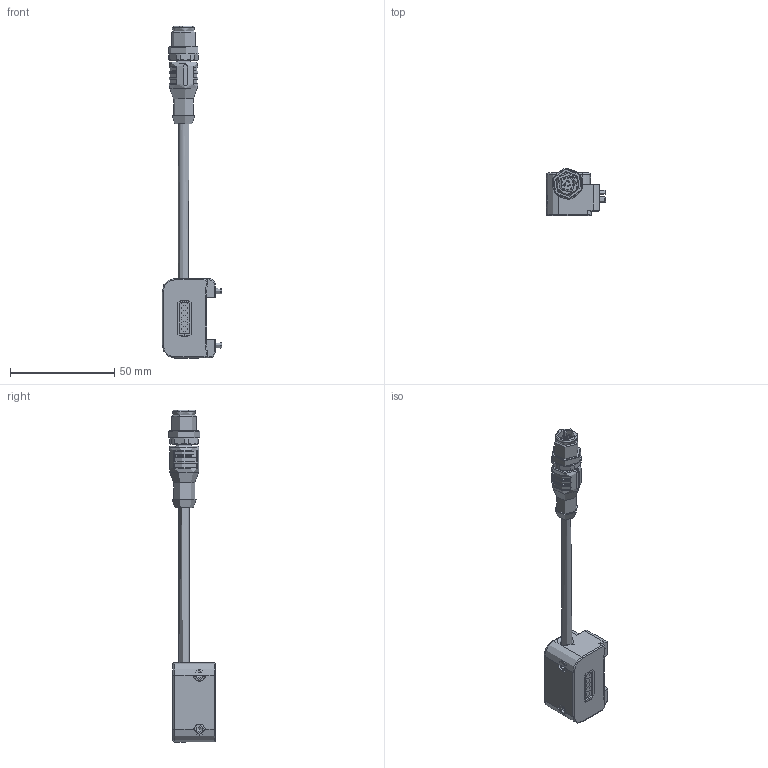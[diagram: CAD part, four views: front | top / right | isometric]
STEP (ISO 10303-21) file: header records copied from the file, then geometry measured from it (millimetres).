
FILE_DESCRIPTION(/* description */ (''),/* implementation_level */ '2;1');
FILE_NAME(/* name */ 'T:\CAD\Standard\SHW\SEK-P\SEK100\SEK100-1FE12\G-SEK100-O-1FE12-300-M12.stp',/* time_stamp */ '2021-03-24T11:25:13+01:00',/* author */ ('vbednarz'),/* organization */ (''),/* preprocessor_version */ 'ST-DEVELOPER v17',/* originating_system */ 'Autodesk Inventor 2018',/* authorisation */ '');
FILE_SCHEMA (('AUTOMOTIVE_DESIGN { 1 0 10303 214 3 1 1 }'));
Length unit declared in the file: millimetre
Products named in the file (1): G-SEK100-O-1FE12
Bounding box: 28.5 x 22.37 x 159.13 mm (x, y, z)
Volume: 21374.1 mm3; surface area: 13134.8 mm2
Topology: 5 solids, 5 shells, 824 faces, 2073 edges, 1330 vertices
Faces by surface type: plane 306, cylinder 203, bspline 178, torus 95, cone 30, sphere 12
Full cylindrical faces by diameter (mm): 0.6 x12, 1 x2, 1.35 x12, 1.8 x2, 1.83 x12, 2 x2, 2.02 x2, 3 x2, 3.4 x2, 4.5 x4, 5 x4, 5.2 x1, 5.5 x2, 5.8 x1, 6 x2, 8.3 x1, 8.7 x1, 10.2 x1, 10.5 x1, 10.8 x1, 12 x1, 14 x1, 15 x1
Entity records: 32397 total; most frequent: CARTESIAN_POINT 12331, ORIENTED_EDGE 4098, DIRECTION 3840, EDGE_CURVE 2049, AXIS2_PLACEMENT_3D 1462, VERTEX_POINT 1330, EDGE_LOOP 925, LINE 916
